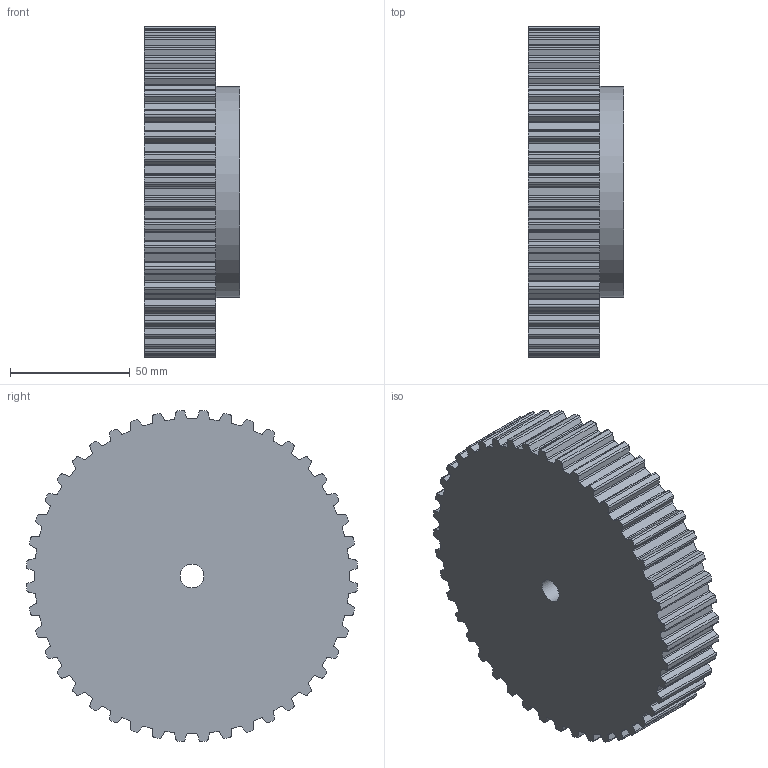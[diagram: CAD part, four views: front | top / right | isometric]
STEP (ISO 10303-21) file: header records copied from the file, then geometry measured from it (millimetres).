
FILE_DESCRIPTION( ( 'STEP AP203' ), '1' );
FILE_NAME( 'C:/Users/Stangenbergd/Documents/CAD_Step/1/16434400.stp', '2020-09-13T08:39:16', ( 'License CC BY-ND 4.0' ), ( 'CADENAS' ), ' ', 'PARTsolutions', ' ' );
FILE_SCHEMA( ( 'CONFIG_CONTROL_DESIGN' ) );
Length unit declared in the file: millimetre
Products named in the file (1): _16434400
Bounding box: 40 x 137.98 x 137.98 mm (x, y, z)
Volume: 483646.7 mm3; surface area: 50707.2 mm2
Topology: 1 solids, 1 shells, 357 faces, 1062 edges, 708 vertices
Faces by surface type: cylinder 222, plane 135
Full cylindrical faces by diameter (mm): 10 x1, 88 x1
Entity records: 12198 total; most frequent: DIRECTION 2220, CARTESIAN_POINT 2126, ORIENTED_EDGE 2120, EDGE_CURVE 1060, AXIS2_PLACEMENT_3D 802, VERTEX_POINT 708, LINE 616, VECTOR 616
